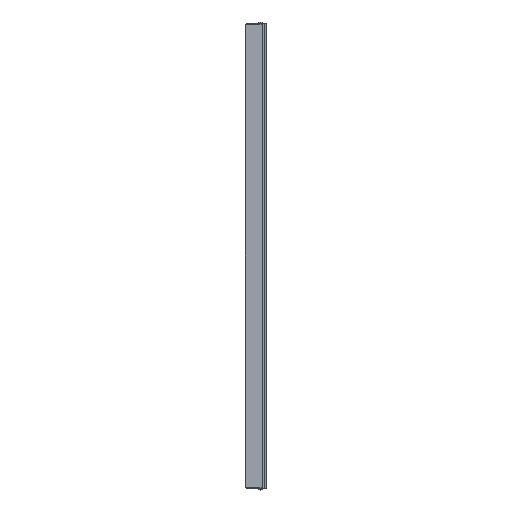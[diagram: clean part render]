
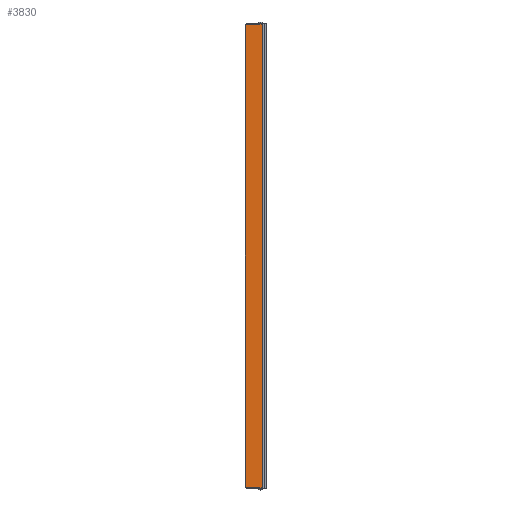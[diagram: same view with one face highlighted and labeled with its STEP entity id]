
A CAD part, left-side view. The second image highlights one B-rep face of the part: STEP entity #3830.
In plain terms, the highlighted planar face has unit normal (-1, 0, 0).
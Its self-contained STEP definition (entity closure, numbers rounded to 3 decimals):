
#466=DIRECTION('',(0.,1.,0.));
#467=VECTOR('',#466,3.303);
#468=CARTESIAN_POINT('',(-14.,13.197,297.));
#469=LINE('',#468,#467);
#839=DIRECTION('',(0.,1.,0.));
#840=VECTOR('',#839,17.497);
#841=CARTESIAN_POINT('',(-14.,-4.3,298.));
#842=LINE('',#841,#840);
#847=DIRECTION('',(0.,0.,1.));
#848=VECTOR('',#847,596.);
#849=CARTESIAN_POINT('',(-14.,-4.3,-298.));
#850=LINE('',#849,#848);
#1202=DIRECTION('',(0.,0.,-1.));
#1203=VECTOR('',#1202,594.);
#1204=CARTESIAN_POINT('',(-14.,16.5,297.));
#1205=LINE('',#1204,#1203);
#1206=DIRECTION('',(0.,0.,1.));
#1207=VECTOR('',#1206,1.);
#1208=CARTESIAN_POINT('',(-14.,13.197,-298.));
#1209=LINE('',#1208,#1207);
#1210=DIRECTION('',(0.,1.,0.));
#1211=VECTOR('',#1210,3.303);
#1212=CARTESIAN_POINT('',(-14.,13.197,-297.));
#1213=LINE('',#1212,#1211);
#1214=DIRECTION('',(0.,0.,1.));
#1215=VECTOR('',#1214,1.);
#1216=CARTESIAN_POINT('',(-14.,13.197,297.));
#1217=LINE('',#1216,#1215);
#1222=DIRECTION('',(0.,-1.,0.));
#1223=VECTOR('',#1222,17.497);
#1224=CARTESIAN_POINT('',(-14.,13.197,-298.));
#1225=LINE('',#1224,#1223);
#1810=CARTESIAN_POINT('',(-14.,16.5,-297.));
#1811=VERTEX_POINT('',#1810);
#1820=CARTESIAN_POINT('',(-14.,16.5,297.));
#1821=VERTEX_POINT('',#1820);
#2026=CARTESIAN_POINT('',(-14.,13.197,298.));
#2027=VERTEX_POINT('',#2026);
#2052=CARTESIAN_POINT('',(-14.,-4.3,298.));
#2053=VERTEX_POINT('',#2052);
#2098=CARTESIAN_POINT('',(-14.,13.197,297.));
#2100=VERTEX_POINT('',#2098);
#2284=CARTESIAN_POINT('',(-14.,13.197,-298.));
#2285=VERTEX_POINT('',#2284);
#2286=CARTESIAN_POINT('',(-14.,-4.3,-298.));
#2287=VERTEX_POINT('',#2286);
#2328=CARTESIAN_POINT('',(-14.,13.197,-297.));
#2329=VERTEX_POINT('',#2328);
#3813=CARTESIAN_POINT('',(-14.,16.5,-297.));
#3814=DIRECTION('',(-1.,0.,0.));
#3815=DIRECTION('',(0.,-1.,0.));
#3816=AXIS2_PLACEMENT_3D('',#3813,#3814,#3815);
#3817=PLANE('',#3816);
#3818=ORIENTED_EDGE('',*,*,#3213,.F.);
#3820=ORIENTED_EDGE('',*,*,#3819,.F.);
#3822=ORIENTED_EDGE('',*,*,#3821,.T.);
#3823=ORIENTED_EDGE('',*,*,#2447,.T.);
#3824=ORIENTED_EDGE('',*,*,#3808,.F.);
#3825=ORIENTED_EDGE('',*,*,#2856,.F.);
#3826=ORIENTED_EDGE('',*,*,#3183,.T.);
#3827=ORIENTED_EDGE('',*,*,#3198,.F.);
#3828=EDGE_LOOP('',(#3818,#3820,#3822,#3823,#3824,#3825,#3826,#3827));
#3829=FACE_OUTER_BOUND('',#3828,.F.);
#2447=EDGE_CURVE('',#2329,#1811,#1213,.T.);
#2856=EDGE_CURVE('',#2100,#1821,#469,.T.);
#3183=EDGE_CURVE('',#2100,#2027,#1217,.T.);
#3198=EDGE_CURVE('',#2053,#2027,#842,.T.);
#3213=EDGE_CURVE('',#2287,#2053,#850,.T.);
#3808=EDGE_CURVE('',#1821,#1811,#1205,.T.);
#3819=EDGE_CURVE('',#2285,#2287,#1225,.T.);
#3821=EDGE_CURVE('',#2285,#2329,#1209,.T.);
#3830=ADVANCED_FACE('',(#3829),#3817,.T.);
